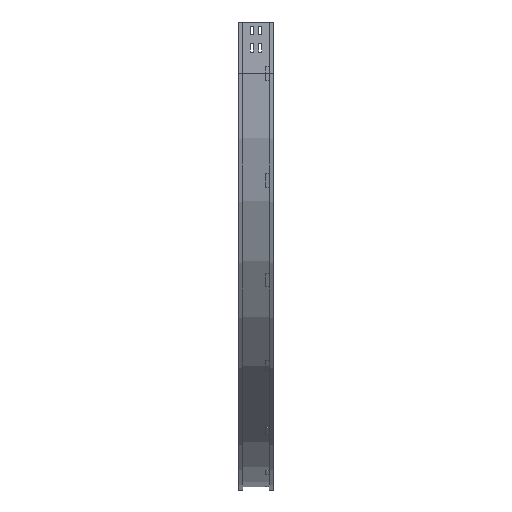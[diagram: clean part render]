
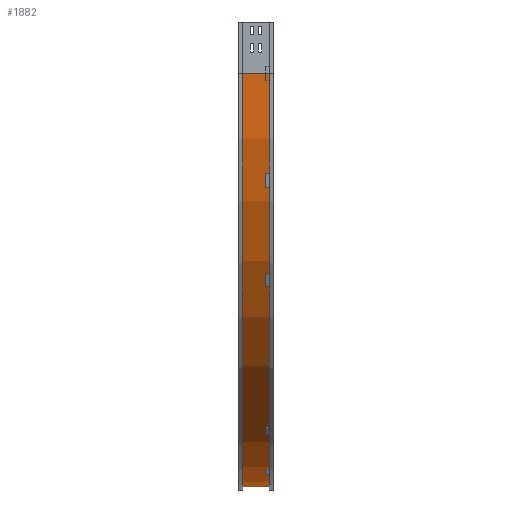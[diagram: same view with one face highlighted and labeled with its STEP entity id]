
A CAD part, left-side view. The second image highlights one B-rep face of the part: STEP entity #1882.
In plain terms, the highlighted cylindrical face has radius 1200 mm (diameter 2400 mm), a partial arc.
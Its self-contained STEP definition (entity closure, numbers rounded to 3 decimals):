
#129 = CARTESIAN_POINT ( 'NONE',  ( 1209., 88., -150. ) ) ;
#146 = DIRECTION ( 'NONE',  ( 0., -1., 0. ) ) ;
#537 = CARTESIAN_POINT ( 'NONE',  ( 1209., 0., -150. ) ) ;
#561 = CIRCLE ( 'NONE', #1139, 1200. ) ;
#614 = LINE ( 'NONE', #4053, #1880 ) ;
#911 = DIRECTION ( 'NONE',  ( 0., -1., 0. ) ) ;
#1139 = AXIS2_PLACEMENT_3D ( 'NONE', #3665, #146, #2943 ) ;
#1307 = VERTEX_POINT ( 'NONE', #3616 ) ;
#1489 = VERTEX_POINT ( 'NONE', #2306 ) ;
#1491 = EDGE_CURVE ( 'NONE', #3929, #1307, #561, .T. ) ;
#1865 = CYLINDRICAL_SURFACE ( 'NONE', #2027, 1200. ) ;
#1880 = VECTOR ( 'NONE', #911, 1000. ) ;
#1882 = ADVANCED_FACE ( 'NONE', ( #3680 ), #1865, .T. ) ;
#1922 = CARTESIAN_POINT ( 'NONE',  ( 9., 12., -150. ) ) ;
#2027 = AXIS2_PLACEMENT_3D ( 'NONE', #537, #2234, #2599 ) ;
#2234 = DIRECTION ( 'NONE',  ( 0., -1., 0. ) ) ;
#2237 = DIRECTION ( 'NONE',  ( 0., -1., 0. ) ) ;
#2271 = DIRECTION ( 'NONE',  ( 0., -1., 0. ) ) ;
#2306 = CARTESIAN_POINT ( 'NONE',  ( 9., 88., -150. ) ) ;
#2532 = CARTESIAN_POINT ( 'NONE',  ( 1209., 12., -1350. ) ) ;
#2588 = ORIENTED_EDGE ( 'NONE', *, *, #3117, .T. ) ;
#2599 = DIRECTION ( 'NONE',  ( 0., 0., -1. ) ) ;
#2624 = VECTOR ( 'NONE', #2237, 1000. ) ;
#2706 = ORIENTED_EDGE ( 'NONE', *, *, #1491, .F. ) ;
#2768 = EDGE_LOOP ( 'NONE', ( #2706, #4273, #2833, #2588 ) ) ;
#2833 = ORIENTED_EDGE ( 'NONE', *, *, #3758, .T. ) ;
#2943 = DIRECTION ( 'NONE',  ( -1., 0., 0. ) ) ;
#3117 = EDGE_CURVE ( 'NONE', #4189, #1307, #3934, .T. ) ;
#3260 = AXIS2_PLACEMENT_3D ( 'NONE', #129, #2271, #4010 ) ;
#3334 = CIRCLE ( 'NONE', #3260, 1200. ) ;
#3616 = CARTESIAN_POINT ( 'NONE',  ( 1209., 12., -1350. ) ) ;
#3665 = CARTESIAN_POINT ( 'NONE',  ( 1209., 12., -150. ) ) ;
#3680 = FACE_OUTER_BOUND ( 'NONE', #2768, .T. ) ;
#3758 = EDGE_CURVE ( 'NONE', #1489, #4189, #3334, .T. ) ;
#3929 = VERTEX_POINT ( 'NONE', #1922 ) ;
#3934 = LINE ( 'NONE', #2532, #2624 ) ;
#3958 = EDGE_CURVE ( 'NONE', #1489, #3929, #614, .T. ) ;
#4010 = DIRECTION ( 'NONE',  ( -1., 0., 0. ) ) ;
#4053 = CARTESIAN_POINT ( 'NONE',  ( 9., 12., -150. ) ) ;
#4189 = VERTEX_POINT ( 'NONE', #4246 ) ;
#4246 = CARTESIAN_POINT ( 'NONE',  ( 1209., 88., -1350. ) ) ;
#4273 = ORIENTED_EDGE ( 'NONE', *, *, #3958, .F. ) ;
